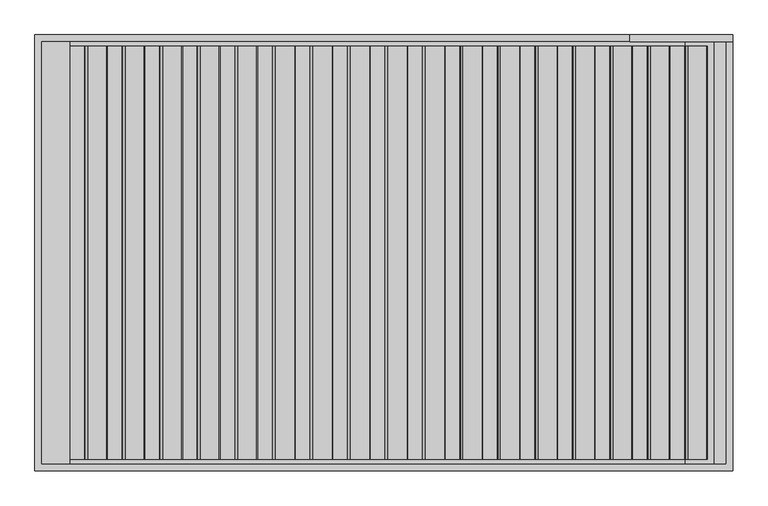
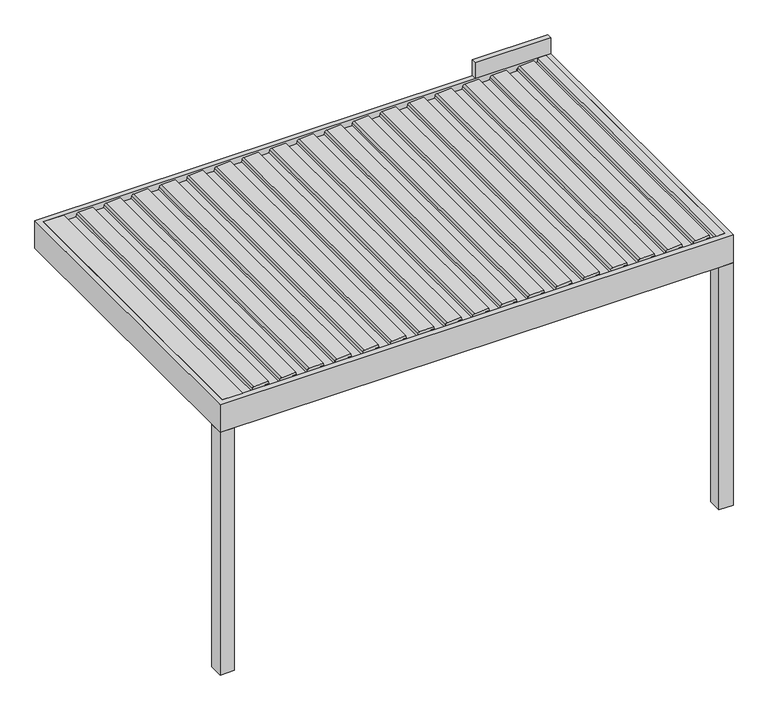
"""IFC4 building model written with IfcOpenShell, lengths in millimetres: proxy geometry, Renson_Algarve_Single : Algarve - Single."""

from ifc_helpers import new_model, si_unit, point, frame, frame_2d, origin, origin_with_axes, place, context, project, spatial, polyline, circle_curve, trimmed, segment, composite_curve, outline, extrude, faceted_brep, source, transform, mapped, element, save


def generic_models_a0bb761a(model_context):
    return source(origin(), model_context, "Body", "SolidModel", [
        extrude(outline(composite_curve([segment(polyline([(2188.35, 1609.6114167), (2216.01198, 1612.0315264), (2217.3970364, 1640.8667769), (2236.8911096, 1637.4294458), (2231.6075693, 1527.4323309)]), True, "CONTINUOUS"), segment(trimmed(circle_curve(frame_2d((2216.6248435, 1528.1520029)), 15.0), [point((2231.6075693, 1527.4323309))], [point((2219.2295662, 1513.3798866))], False, "CARTESIAN"), True, "CONTINUOUS"), segment(polyline([(2219.2295662, 1513.3798866), (2200.0, 1509.9891952), (2200.0, 1422.2534192), (2217.0788237, 1419.2419618), (2216.3450182, 1403.9649913), (2188.35, 1401.5157446), (2188.35, 1609.6114167)]), True, "CONTINUOUS")], self_intersect=False)), frame((0.0, -1185.0, 0.0), z_axis=(0.0, 1.0, 0.0), x_axis=(0.0, 0.0, 1.0)), (0.0, 0.0, 1.0), 2370.0),
        extrude(outline(composite_curve([segment(polyline([(2188.35, 1394.600612), (2216.01198, 1397.0207216), (2217.3970364, 1425.8559721), (2236.8911096, 1422.418641), (2231.6075693, 1312.4215261)]), True, "CONTINUOUS"), segment(trimmed(circle_curve(frame_2d((2216.6248435, 1313.1411981)), 15.0), [point((2231.6075693, 1312.4215261))], [point((2219.2295662, 1298.3690818))], False, "CARTESIAN"), True, "CONTINUOUS"), segment(polyline([(2219.2295662, 1298.3690818), (2200.0, 1294.9783904), (2200.0, 1207.2426144), (2217.0788237, 1204.231157), (2216.3450182, 1188.9541865), (2188.35, 1186.5049398), (2188.35, 1394.600612)]), True, "CONTINUOUS")], self_intersect=False)), frame((0.0, -1185.0, 0.0), z_axis=(0.0, 1.0, 0.0), x_axis=(0.0, 0.0, 1.0)), (0.0, 0.0, 1.0), 2370.0),
        extrude(outline(composite_curve([segment(polyline([(2188.35, 1179.5898072), (2216.01198, 1182.0099168), (2217.3970364, 1210.8451673), (2236.8911096, 1207.4078362), (2231.6075693, 1097.4107214)]), True, "CONTINUOUS"), segment(trimmed(circle_curve(frame_2d((2216.6248435, 1098.1303933)), 15.0), [point((2231.6075693, 1097.4107214))], [point((2219.2295662, 1083.358277))], False, "CARTESIAN"), True, "CONTINUOUS"), segment(polyline([(2219.2295662, 1083.358277), (2200.0, 1079.9675857), (2200.0, 992.2318096), (2217.0788237, 989.2203522), (2216.3450182, 973.9433817), (2188.35, 971.494135), (2188.35, 1179.5898072)]), True, "CONTINUOUS")], self_intersect=False)), frame((0.0, -1185.0, 0.0), z_axis=(0.0, 1.0, 0.0), x_axis=(0.0, 0.0, 1.0)), (0.0, 0.0, 1.0), 2370.0),
        extrude(outline(composite_curve([segment(polyline([(2188.35, 964.5790024), (2216.01198, 966.999112), (2217.3970364, 995.8343625), (2236.8911096, 992.3970314), (2231.6075693, 882.3999166)]), True, "CONTINUOUS"), segment(trimmed(circle_curve(frame_2d((2216.6248435, 883.1195885)), 15.0), [point((2231.6075693, 882.3999166))], [point((2219.2295662, 868.3474722))], False, "CARTESIAN"), True, "CONTINUOUS"), segment(polyline([(2219.2295662, 868.3474722), (2200.0, 864.9567809), (2200.0, 777.2210048), (2217.0788237, 774.2095474), (2216.3450182, 758.932577), (2188.35, 756.4833302), (2188.35, 964.5790024)]), True, "CONTINUOUS")], self_intersect=False)), frame((0.0, -1185.0, 0.0), z_axis=(0.0, 1.0, 0.0), x_axis=(0.0, 0.0, 1.0)), (0.0, 0.0, 1.0), 2370.0),
        extrude(outline(composite_curve([segment(polyline([(2188.35, 749.5681976), (2216.01198, 751.9883073), (2217.3970364, 780.8235577), (2236.8911096, 777.3862267), (2231.6075693, 667.3891118)]), True, "CONTINUOUS"), segment(trimmed(circle_curve(frame_2d((2216.6248435, 668.1087837)), 15.0), [point((2231.6075693, 667.3891118))], [point((2219.2295662, 653.3366674))], False, "CARTESIAN"), True, "CONTINUOUS"), segment(polyline([(2219.2295662, 653.3366674), (2200.0, 649.9459761), (2200.0, 562.2102001), (2217.0788237, 559.1987426), (2216.3450182, 543.9217722), (2188.35, 541.4725254), (2188.35, 749.5681976)]), True, "CONTINUOUS")], self_intersect=False)), frame((0.0, -1185.0, 0.0), z_axis=(0.0, 1.0, 0.0), x_axis=(0.0, 0.0, 1.0)), (0.0, 0.0, 1.0), 2370.0),
        extrude(outline(composite_curve([segment(polyline([(2188.35, 534.5573928), (2216.01198, 536.9775025), (2217.3970364, 565.8127529), (2236.8911096, 562.3754219), (2231.6075693, 452.378307)]), True, "CONTINUOUS"), segment(trimmed(circle_curve(frame_2d((2216.6248435, 453.0979789)), 15.0), [point((2231.6075693, 452.378307))], [point((2219.2295662, 438.3258627))], False, "CARTESIAN"), True, "CONTINUOUS"), segment(polyline([(2219.2295662, 438.3258627), (2200.0, 434.9351713), (2200.0, 347.1993953), (2217.0788237, 344.1879379), (2216.3450182, 328.9109674), (2188.35, 326.4617207), (2188.35, 534.5573928)]), True, "CONTINUOUS")], self_intersect=False)), frame((0.0, -1185.0, 0.0), z_axis=(0.0, 1.0, 0.0), x_axis=(0.0, 0.0, 1.0)), (0.0, 0.0, 1.0), 2370.0),
        extrude(outline(composite_curve([segment(polyline([(2188.35, 319.546588), (2216.01198, 321.9666977), (2217.3970364, 350.8019482), (2236.8911096, 347.3646171), (2231.6075693, 237.3675022)]), True, "CONTINUOUS"), segment(trimmed(circle_curve(frame_2d((2216.6248435, 238.0871742)), 15.0), [point((2231.6075693, 237.3675022))], [point((2219.2295662, 223.3150579))], False, "CARTESIAN"), True, "CONTINUOUS"), segment(polyline([(2219.2295662, 223.3150579), (2200.0, 219.9243665), (2200.0, 132.1885905), (2217.0788237, 129.1771331), (2216.3450182, 113.9001626), (2188.35, 111.4509159), (2188.35, 319.546588)]), True, "CONTINUOUS")], self_intersect=False)), frame((0.0, -1185.0, 0.0), z_axis=(0.0, 1.0, 0.0), x_axis=(0.0, 0.0, 1.0)), (0.0, 0.0, 1.0), 2370.0),
        extrude(outline(composite_curve([segment(polyline([(2188.35, 104.5357833), (2216.01198, 106.9558929), (2217.3970364, 135.7911434), (2236.8911096, 132.3538123), (2231.6075693, 22.3566975)]), True, "CONTINUOUS"), segment(trimmed(circle_curve(frame_2d((2216.6248435, 23.0763694)), 15.0), [point((2231.6075693, 22.3566975))], [point((2219.2295662, 8.3042531))], False, "CARTESIAN"), True, "CONTINUOUS"), segment(polyline([(2219.2295662, 8.3042531), (2200.0, 4.9135617), (2200.0, -82.8222143), (2217.0788237, -85.8336717), (2216.3450182, -101.1106422), (2188.35, -103.5598889), (2188.35, 104.5357833)]), True, "CONTINUOUS")], self_intersect=False)), frame((0.0, -1185.0, 0.0), z_axis=(0.0, 1.0, 0.0), x_axis=(0.0, 0.0, 1.0)), (0.0, 0.0, 1.0), 2370.0),
        extrude(outline(composite_curve([segment(polyline([(2188.35, -110.4750215), (2216.01198, -108.0549119), (2217.3970364, -79.2196614), (2236.8911096, -82.6569925), (2231.6075693, -192.6541073)]), True, "CONTINUOUS"), segment(trimmed(circle_curve(frame_2d((2216.6248435, -191.9344354)), 15.0), [point((2231.6075693, -192.6541073))], [point((2219.2295662, -206.7065517))], False, "CARTESIAN"), True, "CONTINUOUS"), segment(polyline([(2219.2295662, -206.7065517), (2200.0, -210.097243), (2200.0, -297.8330191), (2217.0788237, -300.8444765), (2216.3450182, -316.121447), (2188.35, -318.5706937), (2188.35, -110.4750215)]), True, "CONTINUOUS")], self_intersect=False)), frame((0.0, -1185.0, 0.0), z_axis=(0.0, 1.0, 0.0), x_axis=(0.0, 0.0, 1.0)), (0.0, 0.0, 1.0), 2370.0),
        extrude(outline(composite_curve([segment(polyline([(2188.35, -325.4858263), (2216.01198, -323.0657166), (2217.3970364, -294.2304662), (2236.8911096, -297.6677973), (2231.6075693, -407.6649121)]), True, "CONTINUOUS"), segment(trimmed(circle_curve(frame_2d((2216.6248435, -406.9452402)), 15.0), [point((2231.6075693, -407.6649121))], [point((2219.2295662, -421.7173565))], False, "CARTESIAN"), True, "CONTINUOUS"), segment(polyline([(2219.2295662, -421.7173565), (2200.0, -425.1080478), (2200.0, -512.8438238), (2217.0788237, -515.8552813), (2216.3450182, -531.1322517), (2188.35, -533.5814985), (2188.35, -325.4858263)]), True, "CONTINUOUS")], self_intersect=False)), frame((0.0, -1185.0, 0.0), z_axis=(0.0, 1.0, 0.0), x_axis=(0.0, 0.0, 1.0)), (0.0, 0.0, 1.0), 2370.0),
        extrude(outline(composite_curve([segment(polyline([(2188.35, -540.4966311), (2216.01198, -538.0765214), (2217.3970364, -509.241271), (2236.8911096, -512.678602), (2231.6075693, -622.6757169)]), True, "CONTINUOUS"), segment(trimmed(circle_curve(frame_2d((2216.6248435, -621.956045)), 15.0), [point((2231.6075693, -622.6757169))], [point((2219.2295662, -636.7281613))], False, "CARTESIAN"), True, "CONTINUOUS"), segment(polyline([(2219.2295662, -636.7281613), (2200.0, -640.1188526), (2200.0, -727.8546286), (2217.0788237, -730.866086), (2216.3450182, -746.1430565), (2188.35, -748.5923032), (2188.35, -540.4966311)]), True, "CONTINUOUS")], self_intersect=False)), frame((0.0, -1185.0, 0.0), z_axis=(0.0, 1.0, 0.0), x_axis=(0.0, 0.0, 1.0)), (0.0, 0.0, 1.0), 2370.0),
        extrude(outline(composite_curve([segment(polyline([(2188.35, -755.5074359), (2216.01198, -753.0873262), (2217.3970364, -724.2520757), (2236.8911096, -727.6894068), (2231.6075693, -837.6865217)]), True, "CONTINUOUS"), segment(trimmed(circle_curve(frame_2d((2216.6248435, -836.9668497)), 15.0), [point((2231.6075693, -837.6865217))], [point((2219.2295662, -851.738966))], False, "CARTESIAN"), True, "CONTINUOUS"), segment(polyline([(2219.2295662, -851.738966), (2200.0, -855.1296574), (2200.0, -942.8654334), (2217.0788237, -945.8768908), (2216.3450182, -961.1538613), (2188.35, -963.603108), (2188.35, -755.5074359)]), True, "CONTINUOUS")], self_intersect=False)), frame((0.0, -1185.0, 0.0), z_axis=(0.0, 1.0, 0.0), x_axis=(0.0, 0.0, 1.0)), (0.0, 0.0, 1.0), 2370.0),
        extrude(outline(composite_curve([segment(polyline([(2188.35, -970.5182406), (2216.01198, -968.098131), (2217.3970364, -939.2628805), (2236.8911096, -942.7002116), (2231.6075693, -1052.6973265)]), True, "CONTINUOUS"), segment(trimmed(circle_curve(frame_2d((2216.6248435, -1051.9776545)), 15.0), [point((2231.6075693, -1052.6973265))], [point((2219.2295662, -1066.7497708))], False, "CARTESIAN"), True, "CONTINUOUS"), segment(polyline([(2219.2295662, -1066.7497708), (2200.0, -1070.1404622), (2200.0, -1157.8762382), (2217.0788237, -1160.8876956), (2216.3450182, -1176.1646661), (2188.35, -1178.6139128), (2188.35, -970.5182406)]), True, "CONTINUOUS")], self_intersect=False)), frame((0.0, -1185.0, 0.0), z_axis=(0.0, 1.0, 0.0), x_axis=(0.0, 0.0, 1.0)), (0.0, 0.0, 1.0), 2370.0),
        extrude(outline(composite_curve([segment(polyline([(2188.35, -1185.5290454), (2216.01198, -1183.1089358), (2217.3970364, -1154.2736853), (2236.8911096, -1157.7110164), (2231.6075693, -1267.7081312)]), True, "CONTINUOUS"), segment(trimmed(circle_curve(frame_2d((2216.6248435, -1266.9884593)), 15.0), [point((2231.6075693, -1267.7081312))], [point((2219.2295662, -1281.7605756))], False, "CARTESIAN"), True, "CONTINUOUS"), segment(polyline([(2219.2295662, -1281.7605756), (2200.0, -1285.1512669), (2200.0, -1372.887043), (2217.0788237, -1375.8985004), (2216.3450182, -1391.1754709), (2188.35, -1393.6247176), (2188.35, -1185.5290454)]), True, "CONTINUOUS")], self_intersect=False)), frame((0.0, -1185.0, 0.0), z_axis=(0.0, 1.0, 0.0), x_axis=(0.0, 0.0, 1.0)), (0.0, 0.0, 1.0), 2370.0),
        extrude(outline(composite_curve([segment(polyline([(2188.35, -1400.5398502), (2216.01198, -1398.1197405), (2217.3970364, -1369.2844901), (2236.8911096, -1372.7218212), (2231.6075693, -1482.718936)]), True, "CONTINUOUS"), segment(trimmed(circle_curve(frame_2d((2216.6248435, -1481.9992641)), 15.0), [point((2231.6075693, -1482.718936))], [point((2219.2295662, -1496.7713804))], False, "CARTESIAN"), True, "CONTINUOUS"), segment(polyline([(2219.2295662, -1496.7713804), (2200.0, -1500.1620717), (2200.0, -1587.8978478), (2217.0788237, -1590.9093052), (2216.3450182, -1606.1862756), (2188.35, -1608.6355224), (2188.35, -1400.5398502)]), True, "CONTINUOUS")], self_intersect=False)), frame((0.0, -1185.0, 0.0), z_axis=(0.0, 1.0, 0.0), x_axis=(0.0, 0.0, 1.0)), (0.0, 0.0, 1.0), 2370.0),
        extrude(outline(composite_curve([segment(polyline([(2188.35, 1824.6222215), (2216.01198, 1827.0423312), (2217.3970364, 1855.8775816), (2236.8911096, 1852.4402506), (2231.6075693, 1742.4431357)]), True, "CONTINUOUS"), segment(trimmed(circle_curve(frame_2d((2216.6248435, 1743.1628076)), 15.0), [point((2231.6075693, 1742.4431357))], [point((2219.2295662, 1728.3906913))], False, "CARTESIAN"), True, "CONTINUOUS"), segment(polyline([(2219.2295662, 1728.3906913), (2200.0, 1725.0), (2200.0, 1637.264224), (2217.0788237, 1634.2527666), (2216.3450182, 1618.9757961), (2188.35, 1616.5265494), (2188.35, 1824.6222215)]), True, "CONTINUOUS")], self_intersect=False)), frame((0.0, -1185.0, 0.0), z_axis=(0.0, 1.0, 0.0), x_axis=(0.0, 0.0, 1.0)), (0.0, 0.0, 1.0), 2370.0),
        extrude(outline(composite_curve([segment(polyline([(2188.35, -1615.550655), (2216.01198, -1613.1305453), (2217.3970364, -1584.2952949), (2236.8911096, -1587.7326259), (2231.6075693, -1697.7297408)]), True, "CONTINUOUS"), segment(trimmed(circle_curve(frame_2d((2216.6248435, -1697.0100689)), 15.0), [point((2231.6075693, -1697.7297408))], [point((2219.2295662, -1711.7821852))], False, "CARTESIAN"), True, "CONTINUOUS"), segment(polyline([(2219.2295662, -1711.7821852), (2200.0, -1715.1728765), (2200.0, -1802.9086525), (2217.0788237, -1805.9201099), (2216.3450182, -1821.1970804), (2188.35, -1823.6463271), (2188.35, -1615.550655)]), True, "CONTINUOUS")], self_intersect=False)), frame((0.0, -1185.0, 0.0), z_axis=(0.0, 1.0, 0.0), x_axis=(0.0, 0.0, 1.0)), (0.0, 0.0, 1.0), 2370.0),
        extrude(outline(polyline([(2168.0, 1960.0), (2230.0, 1960.0), (2230.0, 1896.0), (2198.0, 1896.0), (2198.0, 1730.0), (2168.0, 1730.0), (2168.0, 1960.0)])), frame((0.0, -1210.0, 0.0), z_axis=(0.0, 1.0, 0.0), x_axis=(0.0, 0.0, 1.0)), (0.0, 0.0, 1.0), 2420.0),
        extrude(outline(polyline([(2230.0, -1800.0), (2230.0, -1960.0), (2186.0, -1960.0), (2186.0, -1827.3193336), (2219.1716603, -1824.4171894), (2220.344502, -1800.0), (2230.0, -1800.0)])), frame((0.0, -1210.0, 0.0), z_axis=(0.0, 1.0, 0.0), x_axis=(0.0, 0.0, 1.0)), (0.0, 0.0, 1.0), 2420.0),
        faceted_brep([(1890.0, 1140.0, 2057.0), (1890.0, 1140.0, 2000.0), (1890.0, -1140.0, 2000.0), (1890.0, -1140.0, 2057.0), (2000.0, 1250.0, 2000.0), (2000.0, 1250.0, 2230.0), (2000.0, -1250.0, 2230.0), (2000.0, -1250.0, 2000.0), (1960.0, 1210.0, 2230.0), (1960.0, 1210.0, 2057.0), (1960.0, -1210.0, 2057.0), (1960.0, -1210.0, 2230.0), (-1890.0, -1140.0, 2000.0), (-1890.0, -1140.0, 2057.0), (-2000.0, -1250.0, 2230.0), (-2000.0, -1250.0, 2000.0), (-1960.0, -1210.0, 2057.0), (-1960.0, -1210.0, 2230.0), (-1890.0, 1140.0, 2000.0), (-1890.0, 1140.0, 2057.0), (-2000.0, 1250.0, 2230.0), (-2000.0, 1250.0, 2000.0), (-1960.0, 1210.0, 2057.0), (-1960.0, 1210.0, 2230.0)], [[[0, 1, 2, 3]], [[4, 5, 6, 7]], [[8, 9, 10, 11]], [[3, 2, 12, 13]], [[7, 6, 14, 15]], [[11, 10, 16, 17]], [[13, 12, 18, 19]], [[15, 14, 20, 21]], [[17, 16, 22, 23]], [[9, 22, 16, 10], [3, 13, 19, 0]], [[19, 18, 1, 0]], [[7, 15, 21, 4], [1, 18, 12, 2]], [[21, 20, 5, 4]], [[5, 20, 14, 6], [11, 17, 23, 8]], [[23, 22, 9, 8]]]),
        extrude(outline(polyline([(2000.0, -1140.0), (2000.0, -1250.0), (1890.0, -1250.0), (1890.0, -1140.0), (2000.0, -1140.0)])), origin_with_axes(), (0.0, 0.0, 1.0), 2000.0),
        extrude(outline(polyline([(-1890.0, -1140.0), (-1890.0, -1250.0), (-2000.0, -1250.0), (-2000.0, -1140.0), (-1890.0, -1140.0)])), origin_with_axes(), (0.0, 0.0, 1.0), 2000.0),
        extrude(outline(polyline([(2000.0, 1250.0), (2000.0, 1210.0), (1410.0, 1210.0), (1410.0, 1250.0), (2000.0, 1250.0)])), frame((0.0, 0.0, 2230.0), z_axis=(0.0, 0.0, 1.0), x_axis=(1.0, 0.0, 0.0)), (0.0, 0.0, 1.0), 130.0),
    ])


if __name__ == "__main__":
    model = new_model("IFC4")
    model_context = context("Model", 3, world=origin())
    ifc_project = project(units=[si_unit("LENGTHUNIT", "METRE", prefix="MILLI")], contexts=[model_context])
    site = spatial("IfcSite", under=ifc_project)
    building = spatial("IfcBuilding", under=site)
    placement = place(None, origin())
    generic_models_shape = generic_models_a0bb761a(model_context)
    element("IfcBuildingElementProxy", 1, Name="Renson_Algarve_Single : Algarve - Single", ObjectType="Renson_Algarve_Single : Algarve - Single", at=placement, inside=building, context=model_context, shape_type="MappedRepresentation", body=[
        mapped(generic_models_shape, transform((0.0, 0.0, 0.0), x_axis=(1.0, 0.0, 0.0), y_axis=(0.0, 1.0, 0.0), z_axis=(0.0, 0.0, 1.0))),
    ])
    save(model, "model.ifc")
